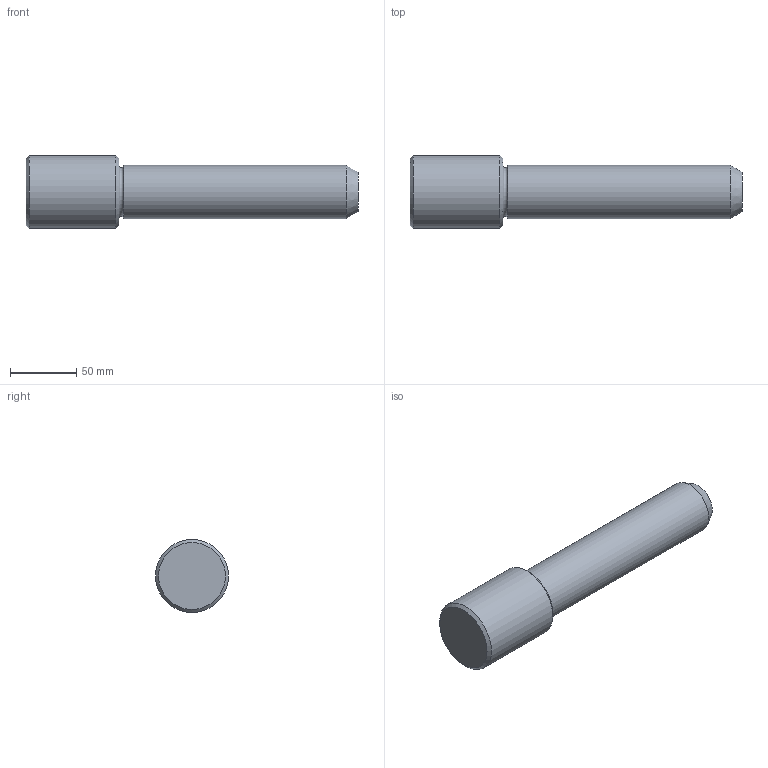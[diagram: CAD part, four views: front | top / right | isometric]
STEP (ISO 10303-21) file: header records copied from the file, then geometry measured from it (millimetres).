
FILE_DESCRIPTION(/* description */ ('Impex Ready, www.impex-ready.pl'),/* implementation_level */ '2;1');
FILE_NAME(/* name */ 'C:\Users\VIKKY\Nextcloud\SM\projekt 10 - części na stronę internetową\Pliki_3D_new\286 Słupy C3\286 C3_STEP\C340250.ipt.step',/* time_stamp */ '2021-12-21T12:04:21+01:00',/* author */ ('SM'),/* organization */ (''),/* preprocessor_version */ 'ST-DEVELOPER v18.1',/* originating_system */ 'Autodesk Inventor 2021',/* authorisation */ '');
FILE_SCHEMA (('AUTOMOTIVE_DESIGN { 1 0 10303 214 3 1 1 }'));
Length unit declared in the file: millimetre
Products named in the file (1): C340250
Bounding box: 250 x 55 x 55 mm (x, y, z)
Volume: 388516.2 mm3; surface area: 38658.1 mm2
Topology: 1 solids, 1 shells, 9 faces, 18 edges, 12 vertices
Faces by surface type: cone 3, plane 3, cylinder 2, torus 1
Full cylindrical faces by diameter (mm): 40 x1, 55 x1
Entity records: 313 total; most frequent: DIRECTION 51, CARTESIAN_POINT 40, ORIENTED_EDGE 36, AXIS2_PLACEMENT_3D 23, EDGE_CURVE 18, CIRCLE 13, VERTEX_POINT 12, EDGE_LOOP 10
